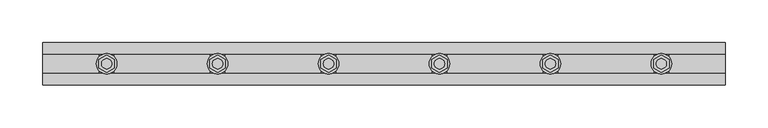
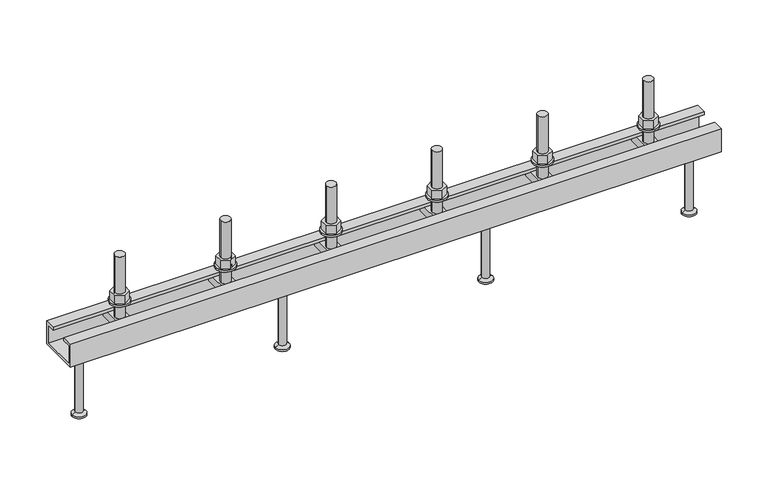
"""IFC4 building model written with IfcOpenShell, lengths in millimetres: fastener geometry, JTA-W JORDAHL® AnchorChannels : JTA-W L=800 mm."""

from ifc_helpers import new_model, si_unit, point, frame, frame_2d, origin, place, context, project, spatial, polyline, circle_curve, trimmed, segment, composite_curve, outline, extrude, source, transform, mapped, element, save
from ifc_brep_helpers import plane_surface, cylinder_surface, revolved_surface, advanced_brep


def fastener_b22f92c5(model_context):
    return source(origin(), model_context, "Body", "SolidModel", [
        extrude(outline(polyline([(595.0, -10.3923048), (586.0, -5.1961524), (586.0, 5.1961524), (595.0, 10.3923048), (604.0, 5.1961524), (604.0, -5.1961524), (595.0, -10.3923048)]), holes=[composite_curve([segment(trimmed(circle_curve(frame_2d((595.0, 0.0)), 6.0), [point((589.0, 0.0))], [point((601.0, 0.0))], True, "CARTESIAN"), True, "CONTINUOUS"), segment(trimmed(circle_curve(frame_2d((595.0, 0.0)), 6.0), [point((601.0, 0.0))], [point((589.0, 0.0))], True, "CARTESIAN"), True, "CONTINUOUS")], self_intersect=False)]), frame((0.0, 0.0, 17.5), z_axis=(0.0, 0.0, 1.0), x_axis=(1.0, 0.0, 0.0)), (0.0, 0.0, 1.0), 10.8),
        extrude(outline(composite_curve([segment(trimmed(circle_curve(frame_2d((595.0, 0.0)), 12.0), [point((583.0, 0.0))], [point((607.0, 0.0))], False, "CARTESIAN"), True, "CONTINUOUS"), segment(trimmed(circle_curve(frame_2d((595.0, 0.0)), 12.0), [point((607.0, 0.0))], [point((583.0, 0.0))], False, "CARTESIAN"), True, "CONTINUOUS")], self_intersect=False), holes=[composite_curve([segment(trimmed(circle_curve(frame_2d((595.0, 0.0)), 6.5), [point((588.5, 0.0))], [point((601.5, 0.0))], True, "CARTESIAN"), True, "CONTINUOUS"), segment(trimmed(circle_curve(frame_2d((595.0, 0.0)), 6.5), [point((601.5, 0.0))], [point((588.5, 0.0))], True, "CARTESIAN"), True, "CONTINUOUS")], self_intersect=False)]), frame((0.0, 0.0, 15.0), z_axis=(0.0, 0.0, 1.0), x_axis=(1.0, 0.0, 0.0)), (0.0, 0.0, 1.0), 2.5),
        extrude(outline(polyline([(465.0, -10.3923048), (456.0, -5.1961524), (456.0, 5.1961524), (465.0, 10.3923048), (474.0, 5.1961524), (474.0, -5.1961524), (465.0, -10.3923048)]), holes=[composite_curve([segment(trimmed(circle_curve(frame_2d((465.0, 0.0)), 6.0), [point((459.0, 0.0))], [point((471.0, 0.0))], True, "CARTESIAN"), True, "CONTINUOUS"), segment(trimmed(circle_curve(frame_2d((465.0, 0.0)), 6.0), [point((471.0, 0.0))], [point((459.0, 0.0))], True, "CARTESIAN"), True, "CONTINUOUS")], self_intersect=False)]), frame((0.0, 0.0, 17.5), z_axis=(0.0, 0.0, 1.0), x_axis=(1.0, 0.0, 0.0)), (0.0, 0.0, 1.0), 10.8),
        extrude(outline(composite_curve([segment(trimmed(circle_curve(frame_2d((465.0, 0.0)), 12.0), [point((453.0, 0.0))], [point((477.0, 0.0))], False, "CARTESIAN"), True, "CONTINUOUS"), segment(trimmed(circle_curve(frame_2d((465.0, 0.0)), 12.0), [point((477.0, 0.0))], [point((453.0, 0.0))], False, "CARTESIAN"), True, "CONTINUOUS")], self_intersect=False), holes=[composite_curve([segment(trimmed(circle_curve(frame_2d((465.0, 0.0)), 6.5), [point((458.5, 0.0))], [point((471.5, 0.0))], True, "CARTESIAN"), True, "CONTINUOUS"), segment(trimmed(circle_curve(frame_2d((465.0, 0.0)), 6.5), [point((471.5, 0.0))], [point((458.5, 0.0))], True, "CARTESIAN"), True, "CONTINUOUS")], self_intersect=False)]), frame((0.0, 0.0, 15.0), z_axis=(0.0, 0.0, 1.0), x_axis=(1.0, 0.0, 0.0)), (0.0, 0.0, 1.0), 2.5),
        extrude(outline(polyline([(335.0, -10.3923048), (326.0, -5.1961524), (326.0, 5.1961524), (335.0, 10.3923048), (344.0, 5.1961524), (344.0, -5.1961524), (335.0, -10.3923048)]), holes=[composite_curve([segment(trimmed(circle_curve(frame_2d((335.0, 0.0)), 6.0), [point((329.0, 0.0))], [point((341.0, 0.0))], True, "CARTESIAN"), True, "CONTINUOUS"), segment(trimmed(circle_curve(frame_2d((335.0, 0.0)), 6.0), [point((341.0, 0.0))], [point((329.0, 0.0))], True, "CARTESIAN"), True, "CONTINUOUS")], self_intersect=False)]), frame((0.0, 0.0, 17.5), z_axis=(0.0, 0.0, 1.0), x_axis=(1.0, 0.0, 0.0)), (0.0, 0.0, 1.0), 10.8),
        extrude(outline(composite_curve([segment(trimmed(circle_curve(frame_2d((335.0, 0.0)), 12.0), [point((323.0, 0.0))], [point((347.0, 0.0))], False, "CARTESIAN"), True, "CONTINUOUS"), segment(trimmed(circle_curve(frame_2d((335.0, 0.0)), 12.0), [point((347.0, 0.0))], [point((323.0, 0.0))], False, "CARTESIAN"), True, "CONTINUOUS")], self_intersect=False), holes=[composite_curve([segment(trimmed(circle_curve(frame_2d((335.0, 0.0)), 6.5), [point((328.5, 0.0))], [point((341.5, 0.0))], True, "CARTESIAN"), True, "CONTINUOUS"), segment(trimmed(circle_curve(frame_2d((335.0, 0.0)), 6.5), [point((341.5, 0.0))], [point((328.5, 0.0))], True, "CARTESIAN"), True, "CONTINUOUS")], self_intersect=False)]), frame((0.0, 0.0, 15.0), z_axis=(0.0, 0.0, 1.0), x_axis=(1.0, 0.0, 0.0)), (0.0, 0.0, 1.0), 2.5),
        extrude(outline(polyline([(205.0, -10.3923048), (196.0, -5.1961524), (196.0, 5.1961524), (205.0, 10.3923048), (214.0, 5.1961524), (214.0, -5.1961524), (205.0, -10.3923048)]), holes=[composite_curve([segment(trimmed(circle_curve(frame_2d((205.0, 0.0)), 6.0), [point((199.0, 0.0))], [point((211.0, 0.0))], True, "CARTESIAN"), True, "CONTINUOUS"), segment(trimmed(circle_curve(frame_2d((205.0, 0.0)), 6.0), [point((211.0, 0.0))], [point((199.0, 0.0))], True, "CARTESIAN"), True, "CONTINUOUS")], self_intersect=False)]), frame((0.0, 0.0, 17.5), z_axis=(0.0, 0.0, 1.0), x_axis=(1.0, 0.0, 0.0)), (0.0, 0.0, 1.0), 10.8),
        extrude(outline(composite_curve([segment(trimmed(circle_curve(frame_2d((205.0, 0.0)), 12.0), [point((193.0, 0.0))], [point((217.0, 0.0))], False, "CARTESIAN"), True, "CONTINUOUS"), segment(trimmed(circle_curve(frame_2d((205.0, 0.0)), 12.0), [point((217.0, 0.0))], [point((193.0, 0.0))], False, "CARTESIAN"), True, "CONTINUOUS")], self_intersect=False), holes=[composite_curve([segment(trimmed(circle_curve(frame_2d((205.0, 0.0)), 6.5), [point((198.5, 0.0))], [point((211.5, 0.0))], True, "CARTESIAN"), True, "CONTINUOUS"), segment(trimmed(circle_curve(frame_2d((205.0, 0.0)), 6.5), [point((211.5, 0.0))], [point((198.5, 0.0))], True, "CARTESIAN"), True, "CONTINUOUS")], self_intersect=False)]), frame((0.0, 0.0, 15.0), z_axis=(0.0, 0.0, 1.0), x_axis=(1.0, 0.0, 0.0)), (0.0, 0.0, 1.0), 2.5),
        advanced_brep(
        [(603.5, -20.7, -4.0), (603.5, -20.7, -14.0), (603.5, 20.7, -14.0), (603.5, 20.7, -4.0), (586.5, -20.7, -4.0), (586.5, 20.7, -4.0), (586.5, 20.7, -14.0), (586.5, -20.7, -14.0), (601.0, 0.0, -4.0), (589.0, 0.0, -4.0), (589.0, 0.0, 76.0), (601.0, 0.0, 76.0)],
        [
            (0, 1),
            (1, 2),
            (2, 3),
            (3, 0),
            (4, 5),
            (5, 6),
            (6, 7),
            (7, 4),
            (3, 5),
            (4, 0),
            (8, 9, circle_curve(frame((595.0, 0.0, -4.0), z_axis=(0.0, 0.0, -1.0), x_axis=(1.0, 0.0, 0.0)), 6.0)),
            (9, 8, circle_curve(frame((595.0, 0.0, -4.0), z_axis=(0.0, 0.0, -1.0), x_axis=(1.0, 0.0, 0.0)), 6.0)),
            (2, 6),
            (1, 7),
            (10, 11, circle_curve(frame((595.0, 0.0, 76.0), z_axis=(0.0, 0.0, 1.0), x_axis=(1.0, 0.0, 0.0)), 6.0)),
            (11, 10, circle_curve(frame((595.0, 0.0, 76.0), z_axis=(0.0, 0.0, 1.0), x_axis=(1.0, 0.0, 0.0)), 6.0)),
            (11, 8),
            (9, 10),
        ],
        [
            plane_surface(frame((603.5, 20.7, -4.0), z_axis=(1.0, 0.0, 0.0), x_axis=(0.0, 1.0, 0.0))),
            plane_surface(frame((586.5, 20.7, -4.0), z_axis=(-1.0, 0.0, 0.0), x_axis=(0.0, -1.0, 0.0))),
            plane_surface(frame((603.5, -20.7, -4.0), z_axis=(0.0, 0.0, 1.0), x_axis=(-1.0, 0.0, 0.0))),
            plane_surface(frame((603.5, 20.7, -4.0), z_axis=(0.0, 1.0, 0.0), x_axis=(-1.0, 0.0, 0.0))),
            plane_surface(frame((603.5, 20.7, -14.0), z_axis=(0.0, 0.0, -1.0), x_axis=(-1.0, 0.0, 0.0))),
            plane_surface(frame((603.5, -20.7, -14.0), z_axis=(0.0, -1.0, 0.0), x_axis=(-1.0, 0.0, 0.0))),
            plane_surface(frame((601.0, 0.0, 76.0), z_axis=(0.0, 0.0, 1.0), x_axis=(0.0, -1.0, 0.0))),
            cylinder_surface(frame((595.0, 0.0, -4.0), z_axis=(0.0, 0.0, 1.0), x_axis=(1.0, 0.0, 0.0)), 6.0),
        ],
        [
            (0, [[1, 2, 3, 4]]),
            (1, [[5, 6, 7, 8]]),
            (2, [[9, -5, 10, -4], [11, 12]]),
            (3, [[13, -6, -9, -3]]),
            (4, [[14, -7, -13, -2]]),
            (5, [[-10, -8, -14, -1]]),
            (6, [[15, 16]]),
            (7, [[17, -12, 18, -16]]),
            (7, [[-18, -11, -17, -15]]),
        ],
    ),
        advanced_brep(
        [(473.5, -20.7, -4.0), (473.5, -20.7, -14.0), (473.5, 20.7, -14.0), (473.5, 20.7, -4.0), (456.5, -20.7, -4.0), (456.5, 20.7, -4.0), (456.5, 20.7, -14.0), (456.5, -20.7, -14.0), (471.0, 0.0, -4.0), (459.0, 0.0, -4.0), (459.0, 0.0, 76.0), (471.0, 0.0, 76.0)],
        [
            (0, 1),
            (1, 2),
            (2, 3),
            (3, 0),
            (4, 5),
            (5, 6),
            (6, 7),
            (7, 4),
            (3, 5),
            (4, 0),
            (8, 9, circle_curve(frame((465.0, 0.0, -4.0), z_axis=(0.0, 0.0, -1.0), x_axis=(1.0, 0.0, 0.0)), 6.0)),
            (9, 8, circle_curve(frame((465.0, 0.0, -4.0), z_axis=(0.0, 0.0, -1.0), x_axis=(1.0, 0.0, 0.0)), 6.0)),
            (2, 6),
            (1, 7),
            (10, 11, circle_curve(frame((465.0, 0.0, 76.0), z_axis=(0.0, 0.0, 1.0), x_axis=(1.0, 0.0, 0.0)), 6.0)),
            (11, 10, circle_curve(frame((465.0, 0.0, 76.0), z_axis=(0.0, 0.0, 1.0), x_axis=(1.0, 0.0, 0.0)), 6.0)),
            (11, 8),
            (9, 10),
        ],
        [
            plane_surface(frame((473.5, 20.7, -4.0), z_axis=(1.0, 0.0, 0.0), x_axis=(0.0, 1.0, 0.0))),
            plane_surface(frame((456.5, 20.7, -4.0), z_axis=(-1.0, 0.0, 0.0), x_axis=(0.0, -1.0, 0.0))),
            plane_surface(frame((473.5, -20.7, -4.0), z_axis=(0.0, 0.0, 1.0), x_axis=(-1.0, 0.0, 0.0))),
            plane_surface(frame((473.5, 20.7, -4.0), z_axis=(0.0, 1.0, 0.0), x_axis=(-1.0, 0.0, 0.0))),
            plane_surface(frame((473.5, 20.7, -14.0), z_axis=(0.0, 0.0, -1.0), x_axis=(-1.0, 0.0, 0.0))),
            plane_surface(frame((473.5, -20.7, -14.0), z_axis=(0.0, -1.0, 0.0), x_axis=(-1.0, 0.0, 0.0))),
            plane_surface(frame((471.0, 0.0, 76.0), z_axis=(0.0, 0.0, 1.0), x_axis=(0.0, -1.0, 0.0))),
            cylinder_surface(frame((465.0, 0.0, -4.0), z_axis=(0.0, 0.0, 1.0), x_axis=(1.0, 0.0, 0.0)), 6.0),
        ],
        [
            (0, [[1, 2, 3, 4]]),
            (1, [[5, 6, 7, 8]]),
            (2, [[9, -5, 10, -4], [11, 12]]),
            (3, [[13, -6, -9, -3]]),
            (4, [[14, -7, -13, -2]]),
            (5, [[-10, -8, -14, -1]]),
            (6, [[15, 16]]),
            (7, [[17, -12, 18, -16]]),
            (7, [[-18, -11, -17, -15]]),
        ],
    ),
        advanced_brep(
        [(343.5, -20.7, -4.0), (343.5, -20.7, -14.0), (343.5, 20.7, -14.0), (343.5, 20.7, -4.0), (326.5, -20.7, -4.0), (326.5, 20.7, -4.0), (326.5, 20.7, -14.0), (326.5, -20.7, -14.0), (341.0, 0.0, -4.0), (329.0, 0.0, -4.0), (329.0, 0.0, 76.0), (341.0, 0.0, 76.0)],
        [
            (0, 1),
            (1, 2),
            (2, 3),
            (3, 0),
            (4, 5),
            (5, 6),
            (6, 7),
            (7, 4),
            (3, 5),
            (4, 0),
            (8, 9, circle_curve(frame((335.0, 0.0, -4.0), z_axis=(0.0, 0.0, -1.0), x_axis=(1.0, 0.0, 0.0)), 6.0)),
            (9, 8, circle_curve(frame((335.0, 0.0, -4.0), z_axis=(0.0, 0.0, -1.0), x_axis=(1.0, 0.0, 0.0)), 6.0)),
            (2, 6),
            (1, 7),
            (10, 11, circle_curve(frame((335.0, 0.0, 76.0), z_axis=(0.0, 0.0, 1.0), x_axis=(1.0, 0.0, 0.0)), 6.0)),
            (11, 10, circle_curve(frame((335.0, 0.0, 76.0), z_axis=(0.0, 0.0, 1.0), x_axis=(1.0, 0.0, 0.0)), 6.0)),
            (11, 8),
            (9, 10),
        ],
        [
            plane_surface(frame((343.5, 20.7, -4.0), z_axis=(1.0, 0.0, 0.0), x_axis=(0.0, 1.0, 0.0))),
            plane_surface(frame((326.5, 20.7, -4.0), z_axis=(-1.0, 0.0, 0.0), x_axis=(0.0, -1.0, 0.0))),
            plane_surface(frame((343.5, -20.7, -4.0), z_axis=(0.0, 0.0, 1.0), x_axis=(-1.0, 0.0, 0.0))),
            plane_surface(frame((343.5, 20.7, -4.0), z_axis=(0.0, 1.0, 0.0), x_axis=(-1.0, 0.0, 0.0))),
            plane_surface(frame((343.5, 20.7, -14.0), z_axis=(0.0, 0.0, -1.0), x_axis=(-1.0, 0.0, 0.0))),
            plane_surface(frame((343.5, -20.7, -14.0), z_axis=(0.0, -1.0, 0.0), x_axis=(-1.0, 0.0, 0.0))),
            plane_surface(frame((341.0, 0.0, 76.0), z_axis=(0.0, 0.0, 1.0), x_axis=(0.0, -1.0, 0.0))),
            cylinder_surface(frame((335.0, 0.0, -4.0), z_axis=(0.0, 0.0, 1.0), x_axis=(1.0, 0.0, 0.0)), 6.0),
        ],
        [
            (0, [[1, 2, 3, 4]]),
            (1, [[5, 6, 7, 8]]),
            (2, [[9, -5, 10, -4], [11, 12]]),
            (3, [[13, -6, -9, -3]]),
            (4, [[14, -7, -13, -2]]),
            (5, [[-10, -8, -14, -1]]),
            (6, [[15, 16]]),
            (7, [[17, -12, 18, -16]]),
            (7, [[-18, -11, -17, -15]]),
        ],
    ),
        advanced_brep(
        [(213.5, -20.7, -4.0), (213.5, -20.7, -14.0), (213.5, 20.7, -14.0), (213.5, 20.7, -4.0), (196.5, -20.7, -4.0), (196.5, 20.7, -4.0), (196.5, 20.7, -14.0), (196.5, -20.7, -14.0), (211.0, 0.0, -4.0), (199.0, 0.0, -4.0), (199.0, 0.0, 76.0), (211.0, 0.0, 76.0)],
        [
            (0, 1),
            (1, 2),
            (2, 3),
            (3, 0),
            (4, 5),
            (5, 6),
            (6, 7),
            (7, 4),
            (3, 5),
            (4, 0),
            (8, 9, circle_curve(frame((205.0, 0.0, -4.0), z_axis=(0.0, 0.0, -1.0), x_axis=(1.0, 0.0, 0.0)), 6.0)),
            (9, 8, circle_curve(frame((205.0, 0.0, -4.0), z_axis=(0.0, 0.0, -1.0), x_axis=(1.0, 0.0, 0.0)), 6.0)),
            (2, 6),
            (1, 7),
            (10, 11, circle_curve(frame((205.0, 0.0, 76.0), z_axis=(0.0, 0.0, 1.0), x_axis=(1.0, 0.0, 0.0)), 6.0)),
            (11, 10, circle_curve(frame((205.0, 0.0, 76.0), z_axis=(0.0, 0.0, 1.0), x_axis=(1.0, 0.0, 0.0)), 6.0)),
            (11, 8),
            (9, 10),
        ],
        [
            plane_surface(frame((213.5, 20.7, -4.0), z_axis=(1.0, 0.0, 0.0), x_axis=(0.0, 1.0, 0.0))),
            plane_surface(frame((196.5, 20.7, -4.0), z_axis=(-1.0, 0.0, 0.0), x_axis=(0.0, -1.0, 0.0))),
            plane_surface(frame((213.5, -20.7, -4.0), z_axis=(0.0, 0.0, 1.0), x_axis=(-1.0, 0.0, 0.0))),
            plane_surface(frame((213.5, 20.7, -4.0), z_axis=(0.0, 1.0, 0.0), x_axis=(-1.0, 0.0, 0.0))),
            plane_surface(frame((213.5, 20.7, -14.0), z_axis=(0.0, 0.0, -1.0), x_axis=(-1.0, 0.0, 0.0))),
            plane_surface(frame((213.5, -20.7, -14.0), z_axis=(0.0, -1.0, 0.0), x_axis=(-1.0, 0.0, 0.0))),
            plane_surface(frame((211.0, 0.0, 76.0), z_axis=(0.0, 0.0, 1.0), x_axis=(0.0, -1.0, 0.0))),
            cylinder_surface(frame((205.0, 0.0, -4.0), z_axis=(0.0, 0.0, 1.0), x_axis=(1.0, 0.0, 0.0)), 6.0),
        ],
        [
            (0, [[1, 2, 3, 4]]),
            (1, [[5, 6, 7, 8]]),
            (2, [[9, -5, 10, -4], [11, 12]]),
            (3, [[13, -6, -9, -3]]),
            (4, [[14, -7, -13, -2]]),
            (5, [[-10, -8, -14, -1]]),
            (6, [[15, 16]]),
            (7, [[17, -12, 18, -16]]),
            (7, [[-18, -11, -17, -15]]),
        ],
    ),
        advanced_brep(
        [(525.0, 0.0, -30.0), (511.5, 0.0, -30.0), (538.5, 0.0, -30.0), (516.5, 0.0, -115.0), (525.0, 0.0, -115.0), (533.5, 0.0, -115.0), (516.5, 0.0, -113.0), (533.5, 0.0, -113.0), (520.5, 0.0, -110.6905989), (529.5, 0.0, -110.6905989), (520.5, 0.0, -32.5), (529.5, 0.0, -32.5)],
        [
            (0, 1),
            (1, 2, circle_curve(frame((525.0, 0.0, -30.0), z_axis=(0.0, 0.0, 1.0), x_axis=(1.0, 0.0, 0.0)), 13.5)),
            (2, 0),
            (2, 1, circle_curve(frame((525.0, 0.0, -30.0), z_axis=(0.0, 0.0, 1.0), x_axis=(1.0, 0.0, 0.0)), 13.5)),
            (3, 4),
            (4, 5),
            (5, 3, circle_curve(frame((525.0, 0.0, -115.0), z_axis=(0.0, 0.0, -1.0), x_axis=(1.0, 0.0, 0.0)), 8.5)),
            (3, 5, circle_curve(frame((525.0, 0.0, -115.0), z_axis=(0.0, 0.0, -1.0), x_axis=(1.0, 0.0, 0.0)), 8.5)),
            (6, 3),
            (5, 7),
            (7, 6, circle_curve(frame((525.0, 0.0, -113.0), z_axis=(0.0, 0.0, -1.0), x_axis=(1.0, 0.0, 0.0)), 8.5)),
            (6, 7, circle_curve(frame((525.0, 0.0, -113.0), z_axis=(0.0, 0.0, -1.0), x_axis=(1.0, 0.0, 0.0)), 8.5)),
            (8, 6),
            (7, 9),
            (9, 8, circle_curve(frame((525.0, 0.0, -110.6905989), z_axis=(0.0, 0.0, -1.0), x_axis=(1.0, 0.0, 0.0)), 4.5)),
            (8, 9, circle_curve(frame((525.0, 0.0, -110.6905989), z_axis=(0.0, 0.0, -1.0), x_axis=(1.0, 0.0, 0.0)), 4.5)),
            (10, 8),
            (9, 11),
            (11, 10, circle_curve(frame((525.0, 0.0, -32.5), z_axis=(0.0, 0.0, -1.0), x_axis=(1.0, 0.0, 0.0)), 4.5)),
            (10, 11, circle_curve(frame((525.0, 0.0, -32.5), z_axis=(0.0, 0.0, -1.0), x_axis=(1.0, 0.0, 0.0)), 4.5)),
            (1, 10),
            (11, 2),
        ],
        [
            plane_surface(frame((525.0, 0.0, -30.0), z_axis=(0.0, 0.0, 1.0), x_axis=(1.0, 0.0, 0.0))),
            plane_surface(frame((525.0, 0.0, -115.0), z_axis=(0.0, 0.0, -1.0), x_axis=(1.0, 0.0, 0.0))),
            cylinder_surface(frame((525.0, 0.0, 2299.3150031), z_axis=(0.0, 0.0, 1.0), x_axis=(1.0, 0.0, 0.0)), 8.5),
            revolved_surface(polyline([(533.5, 0.0, -113.0), (529.5, 0.0, -110.6905989)]), (525.0, 0.0, 2299.3150031), (0.0, 0.0, 1.0)),
            cylinder_surface(frame((525.0, 0.0, 2299.3150031), z_axis=(0.0, 0.0, 1.0), x_axis=(1.0, 0.0, 0.0)), 4.5),
            revolved_surface(polyline([(529.5, 0.0, -32.5), (538.5, 0.0, -30.0)]), (525.0, 0.0, 2299.3150031), (0.0, 0.0, 1.0)),
        ],
        [
            (0, [[1, 2, 3]]),
            (0, [[-3, 4, -1]]),
            (1, [[5, 6, 7]]),
            (1, [[-6, -5, 8]]),
            (2, [[9, -7, 10, 11]]),
            (2, [[-10, -8, -9, 12]]),
            (3, [[13, -11, 14, 15]]),
            (3, [[-14, -12, -13, 16]]),
            (4, [[17, -15, 18, 19]]),
            (4, [[-18, -16, -17, 20]]),
            (5, [[21, -19, 22, -2]]),
            (5, [[-22, -20, -21, -4]]),
        ],
    ),
        advanced_brep(
        [(275.0, 0.0, -30.0), (261.5, 0.0, -30.0), (288.5, 0.0, -30.0), (266.5, 0.0, -115.0), (275.0, 0.0, -115.0), (283.5, 0.0, -115.0), (266.5, 0.0, -113.0), (283.5, 0.0, -113.0), (270.5, 0.0, -110.6905989), (279.5, 0.0, -110.6905989), (270.5, 0.0, -32.5), (279.5, 0.0, -32.5)],
        [
            (0, 1),
            (1, 2, circle_curve(frame((275.0, 0.0, -30.0), z_axis=(0.0, 0.0, 1.0), x_axis=(1.0, 0.0, 0.0)), 13.5)),
            (2, 0),
            (2, 1, circle_curve(frame((275.0, 0.0, -30.0), z_axis=(0.0, 0.0, 1.0), x_axis=(1.0, 0.0, 0.0)), 13.5)),
            (3, 4),
            (4, 5),
            (5, 3, circle_curve(frame((275.0, 0.0, -115.0), z_axis=(0.0, 0.0, -1.0), x_axis=(1.0, 0.0, 0.0)), 8.5)),
            (3, 5, circle_curve(frame((275.0, 0.0, -115.0), z_axis=(0.0, 0.0, -1.0), x_axis=(1.0, 0.0, 0.0)), 8.5)),
            (6, 3),
            (5, 7),
            (7, 6, circle_curve(frame((275.0, 0.0, -113.0), z_axis=(0.0, 0.0, -1.0), x_axis=(1.0, 0.0, 0.0)), 8.5)),
            (6, 7, circle_curve(frame((275.0, 0.0, -113.0), z_axis=(0.0, 0.0, -1.0), x_axis=(1.0, 0.0, 0.0)), 8.5)),
            (8, 6),
            (7, 9),
            (9, 8, circle_curve(frame((275.0, 0.0, -110.6905989), z_axis=(0.0, 0.0, -1.0), x_axis=(1.0, 0.0, 0.0)), 4.5)),
            (8, 9, circle_curve(frame((275.0, 0.0, -110.6905989), z_axis=(0.0, 0.0, -1.0), x_axis=(1.0, 0.0, 0.0)), 4.5)),
            (10, 8),
            (9, 11),
            (11, 10, circle_curve(frame((275.0, 0.0, -32.5), z_axis=(0.0, 0.0, -1.0), x_axis=(1.0, 0.0, 0.0)), 4.5)),
            (10, 11, circle_curve(frame((275.0, 0.0, -32.5), z_axis=(0.0, 0.0, -1.0), x_axis=(1.0, 0.0, 0.0)), 4.5)),
            (1, 10),
            (11, 2),
        ],
        [
            plane_surface(frame((275.0, 0.0, -30.0), z_axis=(0.0, 0.0, 1.0), x_axis=(1.0, 0.0, 0.0))),
            plane_surface(frame((275.0, 0.0, -115.0), z_axis=(0.0, 0.0, -1.0), x_axis=(1.0, 0.0, 0.0))),
            cylinder_surface(frame((275.0, 0.0, 2299.3150031), z_axis=(0.0, 0.0, 1.0), x_axis=(1.0, 0.0, 0.0)), 8.5),
            revolved_surface(polyline([(283.5, 0.0, -113.0), (279.5, 0.0, -110.6905989)]), (275.0, 0.0, 2299.3150031), (0.0, 0.0, 1.0)),
            cylinder_surface(frame((275.0, 0.0, 2299.3150031), z_axis=(0.0, 0.0, 1.0), x_axis=(1.0, 0.0, 0.0)), 4.5),
            revolved_surface(polyline([(279.5, 0.0, -32.5), (288.5, 0.0, -30.0)]), (275.0, 0.0, 2299.3150031), (0.0, 0.0, 1.0)),
        ],
        [
            (0, [[1, 2, 3]]),
            (0, [[-3, 4, -1]]),
            (1, [[5, 6, 7]]),
            (1, [[-6, -5, 8]]),
            (2, [[9, -7, 10, 11]]),
            (2, [[-10, -8, -9, 12]]),
            (3, [[13, -11, 14, 15]]),
            (3, [[-14, -12, -13, 16]]),
            (4, [[17, -15, 18, 19]]),
            (4, [[-18, -16, -17, 20]]),
            (5, [[21, -19, 22, -2]]),
            (5, [[-22, -20, -21, -4]]),
        ],
    ),
        extrude(outline(polyline([(725.0, -10.3923048), (716.0, -5.1961524), (716.0, 5.1961524), (725.0, 10.3923048), (734.0, 5.1961524), (734.0, -5.1961524), (725.0, -10.3923048)]), holes=[composite_curve([segment(trimmed(circle_curve(frame_2d((725.0, 0.0)), 6.0), [point((719.0, 0.0))], [point((731.0, 0.0))], True, "CARTESIAN"), True, "CONTINUOUS"), segment(trimmed(circle_curve(frame_2d((725.0, 0.0)), 6.0), [point((731.0, 0.0))], [point((719.0, 0.0))], True, "CARTESIAN"), True, "CONTINUOUS")], self_intersect=False)]), frame((0.0, 0.0, 17.5), z_axis=(0.0, 0.0, 1.0), x_axis=(1.0, 0.0, 0.0)), (0.0, 0.0, 1.0), 10.8),
        extrude(outline(composite_curve([segment(trimmed(circle_curve(frame_2d((725.0, 0.0)), 12.0), [point((713.0, 0.0))], [point((737.0, 0.0))], False, "CARTESIAN"), True, "CONTINUOUS"), segment(trimmed(circle_curve(frame_2d((725.0, 0.0)), 12.0), [point((737.0, 0.0))], [point((713.0, 0.0))], False, "CARTESIAN"), True, "CONTINUOUS")], self_intersect=False), holes=[composite_curve([segment(trimmed(circle_curve(frame_2d((725.0, 0.0)), 6.5), [point((718.5, 0.0))], [point((731.5, 0.0))], True, "CARTESIAN"), True, "CONTINUOUS"), segment(trimmed(circle_curve(frame_2d((725.0, 0.0)), 6.5), [point((731.5, 0.0))], [point((718.5, 0.0))], True, "CARTESIAN"), True, "CONTINUOUS")], self_intersect=False)]), frame((0.0, 0.0, 15.0), z_axis=(0.0, 0.0, 1.0), x_axis=(1.0, 0.0, 0.0)), (0.0, 0.0, 1.0), 2.5),
        extrude(outline(polyline([(75.0, -10.3923048), (66.0, -5.1961524), (66.0, 5.1961524), (75.0, 10.3923048), (84.0, 5.1961524), (84.0, -5.1961524), (75.0, -10.3923048)]), holes=[composite_curve([segment(trimmed(circle_curve(frame_2d((75.0, 0.0)), 6.0), [point((69.0, 0.0))], [point((81.0, 0.0))], True, "CARTESIAN"), True, "CONTINUOUS"), segment(trimmed(circle_curve(frame_2d((75.0, 0.0)), 6.0), [point((81.0, 0.0))], [point((69.0, 0.0))], True, "CARTESIAN"), True, "CONTINUOUS")], self_intersect=False)]), frame((0.0, 0.0, 17.5), z_axis=(0.0, 0.0, 1.0), x_axis=(1.0, 0.0, 0.0)), (0.0, 0.0, 1.0), 10.8),
        extrude(outline(composite_curve([segment(trimmed(circle_curve(frame_2d((75.0, 0.0)), 12.0), [point((63.0, 0.0))], [point((87.0, 0.0))], False, "CARTESIAN"), True, "CONTINUOUS"), segment(trimmed(circle_curve(frame_2d((75.0, 0.0)), 12.0), [point((87.0, 0.0))], [point((63.0, 0.0))], False, "CARTESIAN"), True, "CONTINUOUS")], self_intersect=False), holes=[composite_curve([segment(trimmed(circle_curve(frame_2d((75.0, 0.0)), 6.5), [point((68.5, 0.0))], [point((81.5, 0.0))], True, "CARTESIAN"), True, "CONTINUOUS"), segment(trimmed(circle_curve(frame_2d((75.0, 0.0)), 6.5), [point((81.5, 0.0))], [point((68.5, 0.0))], True, "CARTESIAN"), True, "CONTINUOUS")], self_intersect=False)]), frame((0.0, 0.0, 15.0), z_axis=(0.0, 0.0, 1.0), x_axis=(1.0, 0.0, 0.0)), (0.0, 0.0, 1.0), 2.5),
        advanced_brep(
        [(733.5, -20.7, -4.0), (733.5, -20.7, -14.0), (733.5, 20.7, -14.0), (733.5, 20.7, -4.0), (716.5, -20.7, -4.0), (716.5, 20.7, -4.0), (716.5, 20.7, -14.0), (716.5, -20.7, -14.0), (731.0, 0.0, -4.0), (719.0, 0.0, -4.0), (719.0, 0.0, 76.0), (731.0, 0.0, 76.0)],
        [
            (0, 1),
            (1, 2),
            (2, 3),
            (3, 0),
            (4, 5),
            (5, 6),
            (6, 7),
            (7, 4),
            (3, 5),
            (4, 0),
            (8, 9, circle_curve(frame((725.0, 0.0, -4.0), z_axis=(0.0, 0.0, -1.0), x_axis=(1.0, 0.0, 0.0)), 6.0)),
            (9, 8, circle_curve(frame((725.0, 0.0, -4.0), z_axis=(0.0, 0.0, -1.0), x_axis=(1.0, 0.0, 0.0)), 6.0)),
            (2, 6),
            (1, 7),
            (10, 11, circle_curve(frame((725.0, 0.0, 76.0), z_axis=(0.0, 0.0, 1.0), x_axis=(1.0, 0.0, 0.0)), 6.0)),
            (11, 10, circle_curve(frame((725.0, 0.0, 76.0), z_axis=(0.0, 0.0, 1.0), x_axis=(1.0, 0.0, 0.0)), 6.0)),
            (11, 8),
            (9, 10),
        ],
        [
            plane_surface(frame((733.5, 20.7, -4.0), z_axis=(1.0, 0.0, 0.0), x_axis=(0.0, 1.0, 0.0))),
            plane_surface(frame((716.5, 20.7, -4.0), z_axis=(-1.0, 0.0, 0.0), x_axis=(0.0, -1.0, 0.0))),
            plane_surface(frame((733.5, -20.7, -4.0), z_axis=(0.0, 0.0, 1.0), x_axis=(-1.0, 0.0, 0.0))),
            plane_surface(frame((733.5, 20.7, -4.0), z_axis=(0.0, 1.0, 0.0), x_axis=(-1.0, 0.0, 0.0))),
            plane_surface(frame((733.5, 20.7, -14.0), z_axis=(0.0, 0.0, -1.0), x_axis=(-1.0, 0.0, 0.0))),
            plane_surface(frame((733.5, -20.7, -14.0), z_axis=(0.0, -1.0, 0.0), x_axis=(-1.0, 0.0, 0.0))),
            plane_surface(frame((731.0, 0.0, 76.0), z_axis=(0.0, 0.0, 1.0), x_axis=(0.0, -1.0, 0.0))),
            cylinder_surface(frame((725.0, 0.0, -4.0), z_axis=(0.0, 0.0, 1.0), x_axis=(1.0, 0.0, 0.0)), 6.0),
        ],
        [
            (0, [[1, 2, 3, 4]]),
            (1, [[5, 6, 7, 8]]),
            (2, [[9, -5, 10, -4], [11, 12]]),
            (3, [[13, -6, -9, -3]]),
            (4, [[14, -7, -13, -2]]),
            (5, [[-10, -8, -14, -1]]),
            (6, [[15, 16]]),
            (7, [[17, -12, 18, -16]]),
            (7, [[-18, -11, -17, -15]]),
        ],
    ),
        advanced_brep(
        [(83.5, -20.7, -4.0), (83.5, -20.7, -14.0), (83.5, 20.7, -14.0), (83.5, 20.7, -4.0), (66.5, -20.7, -4.0), (66.5, 20.7, -4.0), (66.5, 20.7, -14.0), (66.5, -20.7, -14.0), (81.0, 0.0, -4.0), (69.0, 0.0, -4.0), (69.0, 0.0, 76.0), (81.0, 0.0, 76.0)],
        [
            (0, 1),
            (1, 2),
            (2, 3),
            (3, 0),
            (4, 5),
            (5, 6),
            (6, 7),
            (7, 4),
            (3, 5),
            (4, 0),
            (8, 9, circle_curve(frame((75.0, 0.0, -4.0), z_axis=(0.0, 0.0, -1.0), x_axis=(1.0, 0.0, 0.0)), 6.0)),
            (9, 8, circle_curve(frame((75.0, 0.0, -4.0), z_axis=(0.0, 0.0, -1.0), x_axis=(1.0, 0.0, 0.0)), 6.0)),
            (2, 6),
            (1, 7),
            (10, 11, circle_curve(frame((75.0, 0.0, 76.0), z_axis=(0.0, 0.0, 1.0), x_axis=(1.0, 0.0, 0.0)), 6.0)),
            (11, 10, circle_curve(frame((75.0, 0.0, 76.0), z_axis=(0.0, 0.0, 1.0), x_axis=(1.0, 0.0, 0.0)), 6.0)),
            (11, 8),
            (9, 10),
        ],
        [
            plane_surface(frame((83.5, 20.7, -4.0), z_axis=(1.0, 0.0, 0.0), x_axis=(0.0, 1.0, 0.0))),
            plane_surface(frame((66.5, 20.7, -4.0), z_axis=(-1.0, 0.0, 0.0), x_axis=(0.0, -1.0, 0.0))),
            plane_surface(frame((83.5, -20.7, -4.0), z_axis=(0.0, 0.0, 1.0), x_axis=(-1.0, 0.0, 0.0))),
            plane_surface(frame((83.5, 20.7, -4.0), z_axis=(0.0, 1.0, 0.0), x_axis=(-1.0, 0.0, 0.0))),
            plane_surface(frame((83.5, 20.7, -14.0), z_axis=(0.0, 0.0, -1.0), x_axis=(-1.0, 0.0, 0.0))),
            plane_surface(frame((83.5, -20.7, -14.0), z_axis=(0.0, -1.0, 0.0), x_axis=(-1.0, 0.0, 0.0))),
            plane_surface(frame((81.0, 0.0, 76.0), z_axis=(0.0, 0.0, 1.0), x_axis=(0.0, -1.0, 0.0))),
            cylinder_surface(frame((75.0, 0.0, -4.0), z_axis=(0.0, 0.0, 1.0), x_axis=(1.0, 0.0, 0.0)), 6.0),
        ],
        [
            (0, [[1, 2, 3, 4]]),
            (1, [[5, 6, 7, 8]]),
            (2, [[9, -5, 10, -4], [11, 12]]),
            (3, [[13, -6, -9, -3]]),
            (4, [[14, -7, -13, -2]]),
            (5, [[-10, -8, -14, -1]]),
            (6, [[15, 16]]),
            (7, [[17, -12, 18, -16]]),
            (7, [[-18, -11, -17, -15]]),
        ],
    ),
        advanced_brep(
        [(775.0, 0.0, -30.0), (761.5, 0.0, -30.0), (788.5, 0.0, -30.0), (766.5, 0.0, -115.0), (775.0, 0.0, -115.0), (783.5, 0.0, -115.0), (766.5, 0.0, -113.0), (783.5, 0.0, -113.0), (770.5, 0.0, -110.6905989), (779.5, 0.0, -110.6905989), (770.5, 0.0, -32.5), (779.5, 0.0, -32.5)],
        [
            (0, 1),
            (1, 2, circle_curve(frame((775.0, 0.0, -30.0), z_axis=(0.0, 0.0, 1.0), x_axis=(1.0, 0.0, 0.0)), 13.5)),
            (2, 0),
            (2, 1, circle_curve(frame((775.0, 0.0, -30.0), z_axis=(0.0, 0.0, 1.0), x_axis=(1.0, 0.0, 0.0)), 13.5)),
            (3, 4),
            (4, 5),
            (5, 3, circle_curve(frame((775.0, 0.0, -115.0), z_axis=(0.0, 0.0, -1.0), x_axis=(1.0, 0.0, 0.0)), 8.5)),
            (3, 5, circle_curve(frame((775.0, 0.0, -115.0), z_axis=(0.0, 0.0, -1.0), x_axis=(1.0, 0.0, 0.0)), 8.5)),
            (6, 3),
            (5, 7),
            (7, 6, circle_curve(frame((775.0, 0.0, -113.0), z_axis=(0.0, 0.0, -1.0), x_axis=(1.0, 0.0, 0.0)), 8.5)),
            (6, 7, circle_curve(frame((775.0, 0.0, -113.0), z_axis=(0.0, 0.0, -1.0), x_axis=(1.0, 0.0, 0.0)), 8.5)),
            (8, 6),
            (7, 9),
            (9, 8, circle_curve(frame((775.0, 0.0, -110.6905989), z_axis=(0.0, 0.0, -1.0), x_axis=(1.0, 0.0, 0.0)), 4.5)),
            (8, 9, circle_curve(frame((775.0, 0.0, -110.6905989), z_axis=(0.0, 0.0, -1.0), x_axis=(1.0, 0.0, 0.0)), 4.5)),
            (10, 8),
            (9, 11),
            (11, 10, circle_curve(frame((775.0, 0.0, -32.5), z_axis=(0.0, 0.0, -1.0), x_axis=(1.0, 0.0, 0.0)), 4.5)),
            (10, 11, circle_curve(frame((775.0, 0.0, -32.5), z_axis=(0.0, 0.0, -1.0), x_axis=(1.0, 0.0, 0.0)), 4.5)),
            (1, 10),
            (11, 2),
        ],
        [
            plane_surface(frame((775.0, 0.0, -30.0), z_axis=(0.0, 0.0, 1.0), x_axis=(1.0, 0.0, 0.0))),
            plane_surface(frame((775.0, 0.0, -115.0), z_axis=(0.0, 0.0, -1.0), x_axis=(1.0, 0.0, 0.0))),
            cylinder_surface(frame((775.0, 0.0, 2299.3150031), z_axis=(0.0, 0.0, 1.0), x_axis=(1.0, 0.0, 0.0)), 8.5),
            revolved_surface(polyline([(783.5, 0.0, -113.0), (779.5, 0.0, -110.6905989)]), (775.0, 0.0, 2299.3150031), (0.0, 0.0, 1.0)),
            cylinder_surface(frame((775.0, 0.0, 2299.3150031), z_axis=(0.0, 0.0, 1.0), x_axis=(1.0, 0.0, 0.0)), 4.5),
            revolved_surface(polyline([(779.5, 0.0, -32.5), (788.5, 0.0, -30.0)]), (775.0, 0.0, 2299.3150031), (0.0, 0.0, 1.0)),
        ],
        [
            (0, [[1, 2, 3]]),
            (0, [[-3, 4, -1]]),
            (1, [[5, 6, 7]]),
            (1, [[-6, -5, 8]]),
            (2, [[9, -7, 10, 11]]),
            (2, [[-10, -8, -9, 12]]),
            (3, [[13, -11, 14, 15]]),
            (3, [[-14, -12, -13, 16]]),
            (4, [[17, -15, 18, 19]]),
            (4, [[-18, -16, -17, 20]]),
            (5, [[21, -19, 22, -2]]),
            (5, [[-22, -20, -21, -4]]),
        ],
    ),
        advanced_brep(
        [(25.0, 0.0, -30.0), (11.5, 0.0, -30.0), (38.5, 0.0, -30.0), (16.5, 0.0, -115.0), (25.0, 0.0, -115.0), (33.5, 0.0, -115.0), (16.5, 0.0, -113.0), (33.5, 0.0, -113.0), (20.5, 0.0, -110.6905989), (29.5, 0.0, -110.6905989), (20.5, 0.0, -32.5), (29.5, 0.0, -32.5)],
        [
            (0, 1),
            (1, 2, circle_curve(frame((25.0, 0.0, -30.0), z_axis=(0.0, 0.0, 1.0), x_axis=(1.0, 0.0, 0.0)), 13.5)),
            (2, 0),
            (2, 1, circle_curve(frame((25.0, 0.0, -30.0), z_axis=(0.0, 0.0, 1.0), x_axis=(1.0, 0.0, 0.0)), 13.5)),
            (3, 4),
            (4, 5),
            (5, 3, circle_curve(frame((25.0, 0.0, -115.0), z_axis=(0.0, 0.0, -1.0), x_axis=(1.0, 0.0, 0.0)), 8.5)),
            (3, 5, circle_curve(frame((25.0, 0.0, -115.0), z_axis=(0.0, 0.0, -1.0), x_axis=(1.0, 0.0, 0.0)), 8.5)),
            (6, 3),
            (5, 7),
            (7, 6, circle_curve(frame((25.0, 0.0, -113.0), z_axis=(0.0, 0.0, -1.0), x_axis=(1.0, 0.0, 0.0)), 8.5)),
            (6, 7, circle_curve(frame((25.0, 0.0, -113.0), z_axis=(0.0, 0.0, -1.0), x_axis=(1.0, 0.0, 0.0)), 8.5)),
            (8, 6),
            (7, 9),
            (9, 8, circle_curve(frame((25.0, 0.0, -110.6905989), z_axis=(0.0, 0.0, -1.0), x_axis=(1.0, 0.0, 0.0)), 4.5)),
            (8, 9, circle_curve(frame((25.0, 0.0, -110.6905989), z_axis=(0.0, 0.0, -1.0), x_axis=(1.0, 0.0, 0.0)), 4.5)),
            (10, 8),
            (9, 11),
            (11, 10, circle_curve(frame((25.0, 0.0, -32.5), z_axis=(0.0, 0.0, -1.0), x_axis=(1.0, 0.0, 0.0)), 4.5)),
            (10, 11, circle_curve(frame((25.0, 0.0, -32.5), z_axis=(0.0, 0.0, -1.0), x_axis=(1.0, 0.0, 0.0)), 4.5)),
            (1, 10),
            (11, 2),
        ],
        [
            plane_surface(frame((25.0, 0.0, -30.0), z_axis=(0.0, 0.0, 1.0), x_axis=(1.0, 0.0, 0.0))),
            plane_surface(frame((25.0, 0.0, -115.0), z_axis=(0.0, 0.0, -1.0), x_axis=(1.0, 0.0, 0.0))),
            cylinder_surface(frame((25.0, 0.0, 2299.3150031), z_axis=(0.0, 0.0, 1.0), x_axis=(1.0, 0.0, 0.0)), 8.5),
            revolved_surface(polyline([(33.5, 0.0, -113.0), (29.5, 0.0, -110.6905989)]), (25.0, 0.0, 2299.3150031), (0.0, 0.0, 1.0)),
            cylinder_surface(frame((25.0, 0.0, 2299.3150031), z_axis=(0.0, 0.0, 1.0), x_axis=(1.0, 0.0, 0.0)), 4.5),
            revolved_surface(polyline([(29.5, 0.0, -32.5), (38.5, 0.0, -30.0)]), (25.0, 0.0, 2299.3150031), (0.0, 0.0, 1.0)),
        ],
        [
            (0, [[1, 2, 3]]),
            (0, [[-3, 4, -1]]),
            (1, [[5, 6, 7]]),
            (1, [[-6, -5, 8]]),
            (2, [[9, -7, 10, 11]]),
            (2, [[-10, -8, -9, 12]]),
            (3, [[13, -11, 14, 15]]),
            (3, [[-14, -12, -13, 16]]),
            (4, [[17, -15, 18, 19]]),
            (4, [[-18, -16, -17, 20]]),
            (5, [[21, -19, 22, -2]]),
            (5, [[-22, -20, -21, -4]]),
        ],
    ),
        extrude(outline(polyline([(-25.0, 0.0), (-11.25, 0.0), (-11.25, -4.0), (-22.2, -4.0), (-22.2, -27.2), (22.2, -27.2), (22.2, -4.0), (11.25, -4.0), (11.25, 0.0), (25.0, 0.0), (25.0, -30.0), (-25.0, -30.0), (-25.0, 0.0)])), frame((0.0, 0.0, 0.0), z_axis=(1.0, 0.0, 0.0), x_axis=(0.0, 1.0, 0.0)), (0.0, 0.0, 1.0), 800.0),
    ])


if __name__ == "__main__":
    model = new_model("IFC4")
    model_context = context("Model", 3, world=origin())
    ifc_project = project(units=[si_unit("LENGTHUNIT", "METRE", prefix="MILLI")], contexts=[model_context])
    site = spatial("IfcSite", under=ifc_project)
    building = spatial("IfcBuilding", under=site)
    placement = place(None, origin())
    fastener_shape = fastener_b22f92c5(model_context)
    element("IfcFastener", 1, ObjectType="JTA-W JORDAHL® AnchorChannels : JTA-W L=800 mm", at=placement, inside=building, context=model_context, shape_type="MappedRepresentation", body=[
        mapped(fastener_shape, transform((0.0, 0.0, 0.0), x_axis=(1.0, 0.0, 0.0), y_axis=(0.0, 1.0, 0.0), z_axis=(0.0, 0.0, 1.0))),
    ])
    save(model, "model.ifc")
